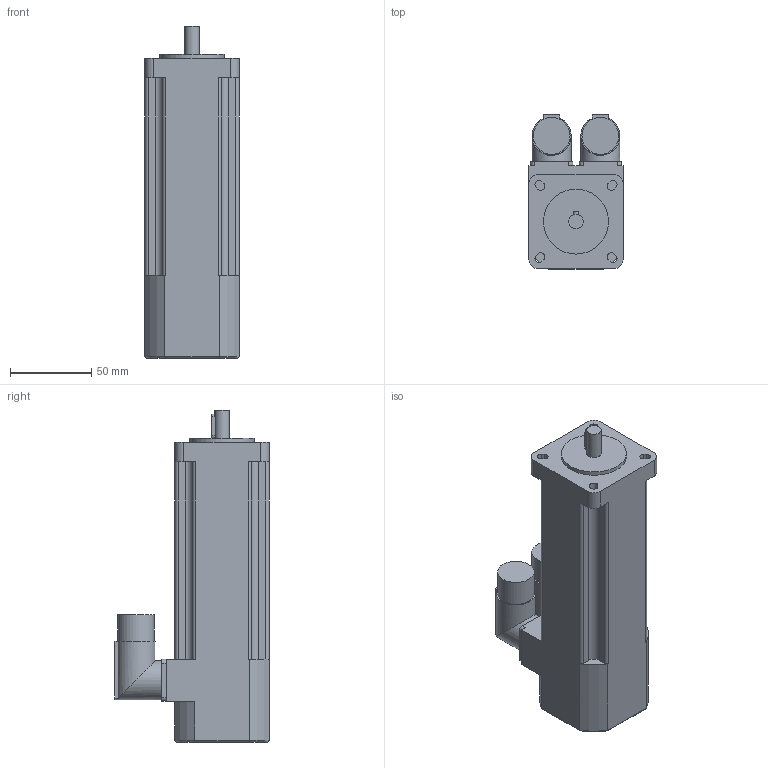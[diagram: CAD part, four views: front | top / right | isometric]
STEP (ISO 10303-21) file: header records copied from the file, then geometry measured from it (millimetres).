
FILE_DESCRIPTION(/* description */ (''),/* implementation_level */ '2;1');
FILE_NAME(/* name */ '\\Lafnas01\disegni\Archivi Lafert\3D\CAD 3D\MODELLI\Assiemi clienti\Serad\Modelli 3D Serad\B28Q\Encoder\With Brake\B28E2Qxx6BRx2033.ipt.stp',/* time_stamp */ '2015-09-07T10:48:23+02:00',/* author */ ('Pastrello Ylenia'),/* organization */ (''),/* preprocessor_version */ 'ST-DEVELOPER v15.6',/* originating_system */ 'Autodesk Inventor 2015',/* authorisation */ '');
FILE_SCHEMA (('AUTOMOTIVE_DESIGN { 1 0 10303 214 3 1 1 }'));
Length unit declared in the file: millimetre
Products named in the file (1): B28E2Qxx6BRx2033
Bounding box: 58 x 95 x 204.5 mm (x, y, z)
Volume: 618004.1 mm3; surface area: 59267.4 mm2
Topology: 1 solids, 1 shells, 135 faces, 364 edges, 237 vertices
Faces by surface type: plane 71, cylinder 60, torus 4
Full cylindrical faces by diameter (mm): 9 x1, 22.7 x2, 24 x2, 40 x1
Entity records: 4341 total; most frequent: CARTESIAN_POINT 864, DIRECTION 737, ORIENTED_EDGE 712, EDGE_CURVE 355, AXIS2_PLACEMENT_3D 258, VERTEX_POINT 235, LINE 221, VECTOR 221
